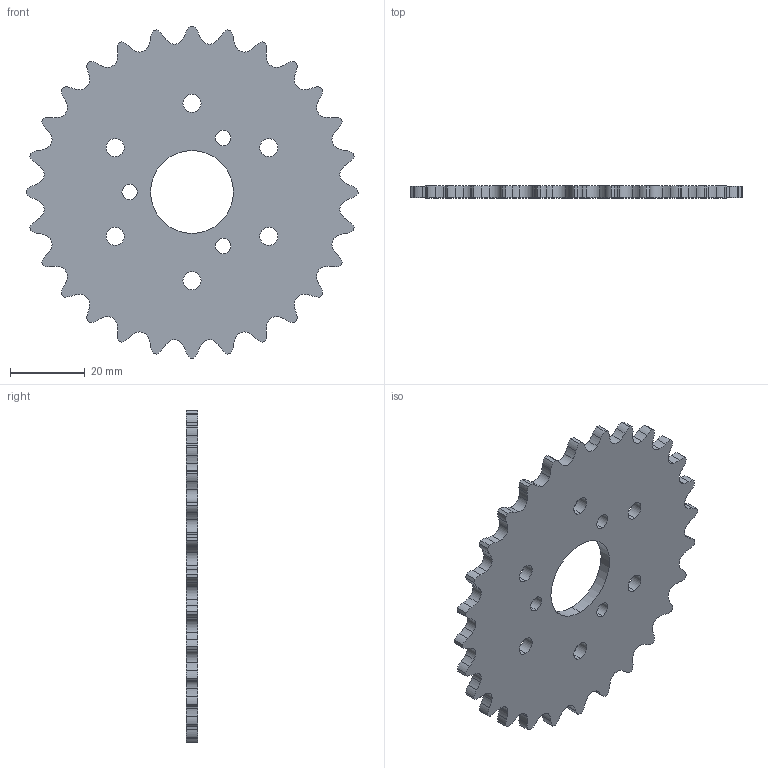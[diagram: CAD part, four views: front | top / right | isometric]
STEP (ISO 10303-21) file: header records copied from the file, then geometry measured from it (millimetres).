
FILE_DESCRIPTION (( 'STEP AP203' ), '1' );
FILE_NAME ('IFI-SPROCKET-35A28 RevB.STEP', '2006-11-03T17:40:54', ( 'Innovation First, Inc.' ), ( 'Innovation First, Inc.' ), 'SwSTEP 2.0', 'SolidWorks 2006052', '' );
FILE_SCHEMA (( 'CONFIG_CONTROL_DESIGN' ));
Length unit declared in the file: inch
Products named in the file (1): IFI-SPROCKET-35A28 RevB
Bounding box: 89.11 x 3.17 x 89.11 mm (x, y, z)
Volume: 15802.3 mm3; surface area: 11845.9 mm2
Topology: 1 solids, 1 shells, 204 faces, 606 edges, 404 vertices
Faces by surface type: cylinder 174, plane 30
Entity records: 7157 total; most frequent: DIRECTION 1364, CARTESIAN_POINT 1215, ORIENTED_EDGE 1212, EDGE_CURVE 606, AXIS2_PLACEMENT_3D 553, VERTEX_POINT 404, CIRCLE 348, VECTOR 258
